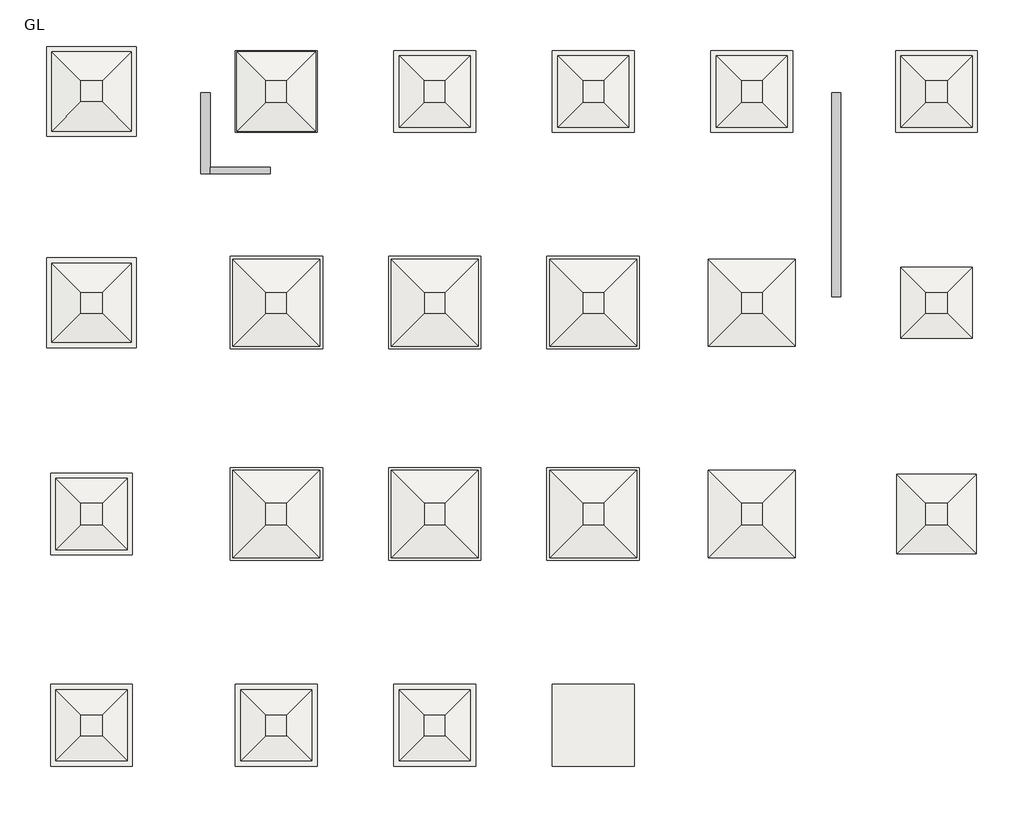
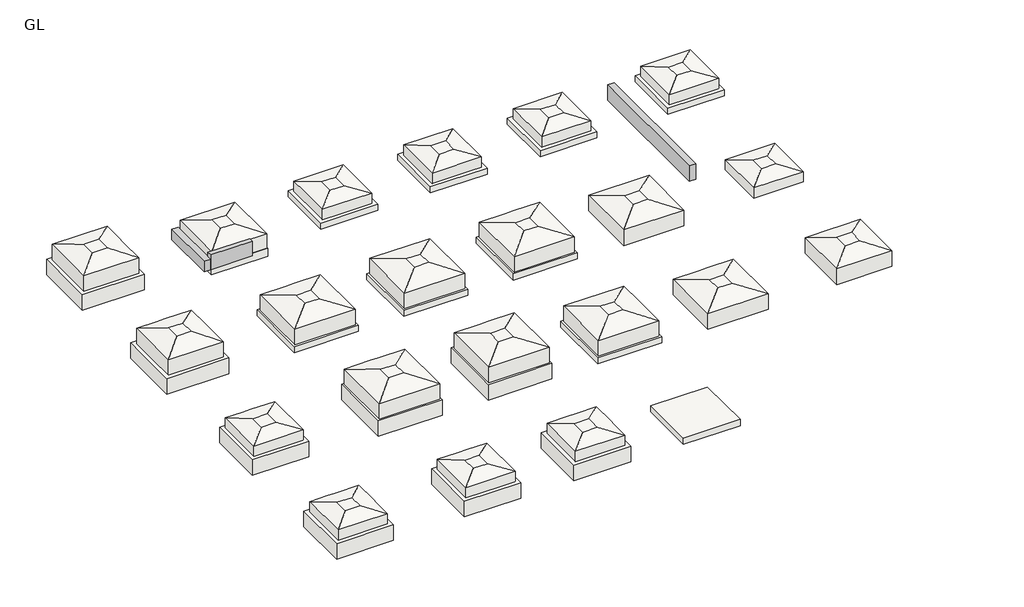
# One storey: 24 slabs, 3 beams.
"""IFC4 building model written with IfcOpenShell, lengths in millimetres."""

from ifc_helpers import new_model, si_unit, origin, place, context, project, spatial, faceted_brep, transform, mapped, element, save
from components import beam_9e31209b, beam_ea546368, beam_85b25be6, slab_0bee21c8, slab_3e6c1c75, slab_3ff351dd

model = new_model("IFC4")

# Units and contexts
model_context = context("Model", 3, world=origin())
ifc_project = project(units=[si_unit("LENGTHUNIT", "METRE", prefix="MILLI")], contexts=[model_context])

# Site, building, storey
site = spatial("IfcSite", under=ifc_project)
building = spatial("IfcBuilding", under=site)
storey = spatial("IfcBuildingStorey", under=building, Name="GL", Elevation=-300.0)

# Beams
placement = place(None, origin())
beam_shape = beam_9e31209b(model_context)
element("IfcBeam", 1, ObjectType="梁下部増打2 : 梁下部増打1", at=placement, inside=storey, context=model_context, shape_type="MappedRepresentation", body=[
    mapped(beam_shape, transform((0.0, 0.0, 0.0), x_axis=(1.0, 0.0, 0.0), y_axis=(0.0, 1.0, 0.0), z_axis=(0.0, 0.0, 1.0))),
])
beam_2_shape = beam_ea546368(model_context)
element("IfcBeam", 2, ObjectType="梁下部増打7 : 梁下部増打1", at=placement, inside=storey, context=model_context, shape_type="MappedRepresentation", body=[
    mapped(beam_2_shape, transform((-1805.1793852, -2009.8000068, 0.0), x_axis=(1.0, 0.0, 0.0), y_axis=(0.0, 1.0, 0.0), z_axis=(0.0, 0.0, 1.0))),
])
beam_3_shape = beam_85b25be6(model_context)
element("IfcBeam", 3, ObjectType="梁下部増打1 : 梁下部増打1", at=placement, inside=storey, context=model_context, shape_type="MappedRepresentation", body=[
    mapped(beam_3_shape, transform((21215.4817145, 0.0, 0.0), x_axis=(1.0, 0.0, 0.0), y_axis=(0.0, 1.0, 0.0), z_axis=(0.0, 0.0, 1.0))),
])

# Slabs
slab_shape = slab_0bee21c8(model_context)
element("IfcSlab", 4, ObjectType="ラップルコンクリート_基礎下端-1600 : ラップルコンクリート", at=placement, inside=storey, context=model_context, shape_type="MappedRepresentation", body=[
    mapped(slab_shape, transform((0.0, 0.0, 0.0), x_axis=(1.0, 0.0, 0.0), y_axis=(0.0, 1.0, 0.0), z_axis=(0.0, 0.0, 1.0))),
])
slab_2_shape = slab_3e6c1c75(model_context)
element("IfcSlab", 5, ObjectType="ラップルコンクリート_基礎下端-1750 : ラップルコンクリート", at=placement, inside=storey, context=model_context, shape_type="MappedRepresentation", body=[
    mapped(slab_2_shape, transform((0.0, 0.0, 0.0), x_axis=(1.0, 0.0, 0.0), y_axis=(0.0, 1.0, 0.0), z_axis=(0.0, 0.0, 1.0))),
])
slab_3_shape = slab_3ff351dd(model_context)
element("IfcSlab", 6, ObjectType="ラップルコンクリート_基礎下端1 : ラップルコンクリート", at=placement, inside=storey, context=model_context, shape_type="MappedRepresentation", body=[
    mapped(slab_3_shape, transform((0.0, 0.0, 0.0), x_axis=(1.0, 0.0, 0.0), y_axis=(0.0, 1.0, 0.0), z_axis=(0.0, 0.0, 1.0))),
])
element("IfcSlab", 7, ObjectType="RC_F_Rec_taper : F1_t", at=placement, inside=storey, context=model_context, shape_type="Brep", body=[
    faceted_brep([(8650.0, 9650.0, -1600.0), (8650.0, 6350.0, -1600.0), (5350.0, 6350.0, -1600.0), (5350.0, 9650.0, -1600.0), (5350.0, 9650.0, -700.0), (6775.0, 9650.0, -700.0), (7225.0, 9650.0, -700.0), (8650.0, 9650.0, -700.0), (8650.0, 6350.0, -700.0), (7400.0, 8400.0, -400.0), (6600.0, 8400.0, -400.0), (6600.0, 7600.0, -400.0), (7400.0, 7600.0, -400.0), (5350.0, 6350.0, -700.0)], [[[0, 1, 2, 3]], [[0, 3, 4, 5, 6, 7]], [[1, 0, 7, 8]], [[9, 10, 11, 12]], [[3, 2, 13, 4]], [[2, 1, 8, 13]], [[10, 9, 7, 6, 5, 4]], [[11, 10, 4, 13]], [[12, 11, 13, 8]], [[9, 12, 8, 7]]]),
])
element("IfcSlab", 8, ObjectType="RC_F_Rec_taper : F1_t", at=placement, inside=storey, context=model_context, shape_type="Brep", body=[
    faceted_brep([(14650.0, 9650.0, -1600.0), (14650.0, 6350.0, -1600.0), (11350.0, 6350.0, -1600.0), (11350.0, 9650.0, -1600.0), (11350.0, 9650.0, -700.0), (12775.0, 9650.0, -700.0), (13225.0, 9650.0, -700.0), (14650.0, 9650.0, -700.0), (14650.0, 8225.0, -700.0), (14650.0, 7775.0, -700.0), (14650.0, 6350.0, -700.0), (13400.0, 8400.0, -400.0), (12600.0, 8400.0, -400.0), (12600.0, 7600.0, -400.0), (13400.0, 7600.0, -400.0), (11350.0, 6350.0, -700.0)], [[[0, 1, 2, 3]], [[0, 3, 4, 5, 6, 7]], [[1, 0, 7, 8, 9, 10]], [[11, 12, 13, 14]], [[3, 2, 15, 4]], [[2, 1, 10, 15]], [[12, 11, 7, 6, 5, 4]], [[13, 12, 4, 15]], [[14, 13, 15, 10]], [[11, 14, 10, 9, 8, 7]]]),
])
element("IfcSlab", 9, ObjectType="RC_F_Rec_taper : F1_t", at=placement, inside=storey, context=model_context, shape_type="Brep", body=[
    faceted_brep([(20650.0, 9650.0, -2150.0), (20650.0, 6350.0, -2150.0), (17350.0, 6350.0, -2150.0), (17350.0, 9650.0, -2150.0), (17350.0, 9650.0, -1250.0), (18775.0, 9650.0, -1250.0), (19225.0, 9650.0, -1250.0), (20650.0, 9650.0, -1250.0), (20650.0, 8225.0, -1250.0), (20650.0, 7775.0, -1250.0), (20650.0, 6350.0, -1250.0), (19400.0, 8400.0, -950.0), (18600.0, 8400.0, -950.0), (18600.0, 7600.0, -950.0), (19400.0, 7600.0, -950.0), (17350.0, 6350.0, -1250.0)], [[[0, 1, 2, 3]], [[0, 3, 4, 5, 6, 7]], [[1, 0, 7, 8, 9, 10]], [[11, 12, 13, 14]], [[3, 2, 15, 4]], [[2, 1, 10, 15]], [[12, 11, 7, 6, 5, 4]], [[13, 12, 4, 15]], [[14, 13, 15, 10]], [[11, 14, 10, 9, 8, 7]]]),
])
element("IfcSlab", 10, ObjectType="RC_F_Rec_taper : F1_t", at=placement, inside=storey, context=model_context, shape_type="Brep", body=[
    faceted_brep([(26650.0, 9650.0, -2700.0), (26650.0, 6350.0, -2700.0), (23350.0, 6350.0, -2700.0), (23350.0, 9650.0, -2700.0), (23350.0, 9650.0, -1800.0), (24775.0, 9650.0, -1800.0), (25225.0, 9650.0, -1800.0), (26650.0, 9650.0, -1800.0), (26650.0, 6350.0, -1800.0), (25400.0, 8400.0, -1500.0), (24600.0, 8400.0, -1500.0), (24600.0, 7600.0, -1500.0), (25400.0, 7600.0, -1500.0), (23350.0, 6350.0, -1800.0)], [[[0, 1, 2, 3]], [[0, 3, 4, 5, 6, 7]], [[1, 0, 7, 8]], [[9, 10, 11, 12]], [[3, 2, 13, 4]], [[2, 1, 8, 13]], [[10, 9, 7, 6, 5, 4]], [[11, 10, 4, 13]], [[12, 11, 13, 8]], [[9, 12, 8, 7]]]),
])
element("IfcSlab", 11, ObjectType="RC_F_Rec_taper : F1_t", at=placement, inside=storey, context=model_context, shape_type="Brep", body=[
    faceted_brep([(8650.0, 17650.0, -2150.0), (8650.0, 14350.0, -2150.0), (5350.0, 14350.0, -2150.0), (5350.0, 17650.0, -2150.0), (5350.0, 17650.0, -1250.0), (6775.0, 17650.0, -1250.0), (7225.0, 17650.0, -1250.0), (8650.0, 17650.0, -1250.0), (8650.0, 14350.0, -1250.0), (7400.0, 16400.0, -950.0), (6600.0, 16400.0, -950.0), (6600.0, 15600.0, -950.0), (7400.0, 15600.0, -950.0), (5350.0, 14350.0, -1250.0)], [[[0, 1, 2, 3]], [[0, 3, 4, 5, 6, 7]], [[1, 0, 7, 8]], [[9, 10, 11, 12]], [[3, 2, 13, 4]], [[2, 1, 8, 13]], [[10, 9, 7, 6, 5, 4]], [[11, 10, 4, 13]], [[12, 11, 13, 8]], [[9, 12, 8, 7]]]),
])
element("IfcSlab", 12, ObjectType="RC_F_Rec_taper : F1_t", at=placement, inside=storey, context=model_context, shape_type="Brep", body=[
    faceted_brep([(14650.0, 17650.0, -2150.0), (14650.0, 14350.0, -2150.0), (11350.0, 14350.0, -2150.0), (11350.0, 17650.0, -2150.0), (11350.0, 17650.0, -1250.0), (12775.0, 17650.0, -1250.0), (13225.0, 17650.0, -1250.0), (14650.0, 17650.0, -1250.0), (14650.0, 14350.0, -1250.0), (13400.0, 16400.0, -950.0), (12600.0, 16400.0, -950.0), (12600.0, 15600.0, -950.0), (13400.0, 15600.0, -950.0), (11350.0, 14350.0, -1250.0)], [[[0, 1, 2, 3]], [[0, 3, 4, 5, 6, 7]], [[1, 0, 7, 8]], [[9, 10, 11, 12]], [[3, 2, 13, 4]], [[2, 1, 8, 13]], [[10, 9, 7, 6, 5, 4]], [[11, 10, 4, 13]], [[12, 11, 13, 8]], [[9, 12, 8, 7]]]),
])
element("IfcSlab", 13, ObjectType="RC_F_Rec_taper : F1_t", at=placement, inside=storey, context=model_context, shape_type="Brep", body=[
    faceted_brep([(20650.0, 17650.0, -2150.0), (20650.0, 14350.0, -2150.0), (17350.0, 14350.0, -2150.0), (17350.0, 17650.0, -2150.0), (17350.0, 17650.0, -1250.0), (18775.0, 17650.0, -1250.0), (19225.0, 17650.0, -1250.0), (20650.0, 17650.0, -1250.0), (20650.0, 16225.0, -1250.0), (20650.0, 15775.0, -1250.0), (20650.0, 14350.0, -1250.0), (19400.0, 16400.0, -950.0), (18600.0, 16400.0, -950.0), (18600.0, 15600.0, -950.0), (19400.0, 15600.0, -950.0), (17350.0, 14350.0, -1250.0)], [[[0, 1, 2, 3]], [[0, 3, 4, 5, 6, 7]], [[1, 0, 7, 8, 9, 10]], [[11, 12, 13, 14]], [[3, 2, 15, 4]], [[2, 1, 10, 15]], [[12, 11, 7, 6, 5, 4]], [[13, 12, 4, 15]], [[14, 13, 15, 10]], [[11, 14, 10, 9, 8, 7]]]),
])
element("IfcSlab", 14, ObjectType="RC_F_Rec_taper : F1_t", at=placement, inside=storey, context=model_context, shape_type="Brep", body=[
    faceted_brep([(26650.0, 17650.0, -2700.0), (26650.0, 14350.0, -2700.0), (23350.0, 14350.0, -2700.0), (23350.0, 17650.0, -2700.0), (23350.0, 17650.0, -1800.0), (26650.0, 17650.0, -1800.0), (26650.0, 14350.0, -1800.0), (25400.0, 16400.0, -1500.0), (24600.0, 16400.0, -1500.0), (24600.0, 15600.0, -1500.0), (25400.0, 15600.0, -1500.0), (23350.0, 14350.0, -1800.0)], [[[0, 1, 2, 3]], [[0, 3, 4, 5]], [[1, 0, 5, 6]], [[7, 8, 9, 10]], [[3, 2, 11, 4]], [[2, 1, 6, 11]], [[8, 7, 5, 4]], [[9, 8, 4, 11]], [[10, 9, 11, 6]], [[7, 10, 6, 5]]]),
])
element("IfcSlab", 15, ObjectType="RC_F_Rec_taper : F2_t", at=placement, inside=storey, context=model_context, shape_type="Brep", body=[
    faceted_brep([(33500.0, 9500.0, -2700.0), (33500.0, 6500.0, -2700.0), (30500.0, 6500.0, -2700.0), (30500.0, 9500.0, -2700.0), (30500.0, 9500.0, -1800.0), (31950.0, 9500.0, -1800.0), (32400.0, 9500.0, -1800.0), (33500.0, 9500.0, -1800.0), (33500.0, 6500.0, -1800.0), (32400.0, 8400.0, -1500.0), (31600.0, 8400.0, -1500.0), (31600.0, 7600.0, -1500.0), (32400.0, 7600.0, -1500.0), (30500.0, 6500.0, -1800.0)], [[[0, 1, 2, 3]], [[0, 3, 4, 5, 6, 7]], [[1, 0, 7, 8]], [[9, 10, 11, 12]], [[3, 2, 13, 4]], [[2, 1, 8, 13]], [[10, 9, 7, 6, 5, 4]], [[11, 10, 4, 13]], [[12, 11, 13, 8]], [[9, 12, 8, 7]]]),
])
element("IfcSlab", 16, ObjectType="RC_F_Rec_taper : F2_t", at=placement, inside=storey, context=model_context, shape_type="Brep", body=[
    faceted_brep([(1500.0, 17500.0, -1600.0), (1500.0, 14500.0, -1600.0), (-1500.0, 14500.0, -1600.0), (-1500.0, 17500.0, -1600.0), (-1500.0, 17500.0, -700.0), (-400.0, 17500.0, -700.0), (50.0, 17500.0, -700.0), (1500.0, 17500.0, -700.0), (1500.0, 16225.0, -700.0), (1500.0, 15775.0, -700.0), (1500.0, 14500.0, -700.0), (400.0, 16400.0, -400.0), (-400.0, 16400.0, -400.0), (-400.0, 15600.0, -400.0), (400.0, 15600.0, -400.0), (-1500.0, 14500.0, -700.0)], [[[0, 1, 2, 3]], [[0, 3, 4, 5, 6, 7]], [[1, 0, 7, 8, 9, 10]], [[11, 12, 13, 14]], [[3, 2, 15, 4]], [[2, 1, 10, 15]], [[12, 11, 7, 6, 5, 4]], [[13, 12, 4, 15]], [[14, 13, 15, 10]], [[11, 14, 10, 9, 8, 7]]]),
])
element("IfcSlab", 17, ObjectType="RC_F_Rec_taper : F2_t", at=placement, inside=storey, context=model_context, shape_type="Brep", body=[
    faceted_brep([(1500.0, 25500.0, -1600.0), (1500.0, 22500.0, -1600.0), (-1500.0, 22500.0, -1600.0), (-1500.0, 25500.0, -1600.0), (-1500.0, 25500.0, -700.0), (1500.0, 25500.0, -700.0), (1500.0, 24400.0, -700.0), (1500.0, 23950.0, -700.0), (1500.0, 22500.0, -700.0), (400.0, 24400.0, -400.0), (-400.0, 24400.0, -400.0), (-400.0, 23600.0, -400.0), (400.0, 23600.0, -400.0), (-1500.0, 22500.0, -700.0)], [[[0, 1, 2, 3]], [[0, 3, 4, 5]], [[1, 0, 5, 6, 7, 8]], [[9, 10, 11, 12]], [[3, 2, 13, 4]], [[2, 1, 8, 13]], [[10, 9, 5, 4]], [[11, 10, 4, 13]], [[12, 11, 13, 8]], [[9, 12, 8, 7, 6, 5]]]),
])
element("IfcSlab", 18, ObjectType="RC_F_Rec_taper : F2_t", at=placement, inside=storey, context=model_context, shape_type="Brep", body=[
    faceted_brep([(8500.0, 25500.0, -2650.0), (8500.0, 22500.0, -2650.0), (5500.0, 22500.0, -2650.0), (5500.0, 25500.0, -2650.0), (5500.0, 25500.0, -1750.0), (8500.0, 25500.0, -1750.0), (8500.0, 24400.0, -1750.0), (8500.0, 24000.0, -1750.0), (8500.0, 22500.0, -1750.0), (7400.0, 24400.0, -1450.0), (6600.0, 24400.0, -1450.0), (6600.0, 23600.0, -1450.0), (7400.0, 23600.0, -1450.0), (5500.0, 22500.0, -1750.0), (7000.0, 22500.0, -1750.0), (6775.0, 22500.0, -1750.0)], [[[0, 1, 2, 3]], [[0, 3, 4, 5]], [[1, 0, 5, 6, 7, 8]], [[9, 10, 11, 12]], [[3, 2, 13, 4]], [[2, 1, 8, 14, 15, 13]], [[10, 9, 5, 4]], [[11, 10, 4, 13]], [[12, 11, 13, 15, 14, 8]], [[9, 12, 8, 7, 6, 5]]]),
])
element("IfcSlab", 19, ObjectType="RC_F_Rec_taper : F3_t", at=placement, inside=storey, context=model_context, shape_type="Brep", body=[
    faceted_brep([(1350.0, 1350.0, -1600.0), (1350.0, -1350.0, -1600.0), (-1350.0, -1350.0, -1600.0), (-1350.0, 1350.0, -1600.0), (-1350.0, 1350.0, -1000.0), (-400.0, 1350.0, -1000.0), (50.0, 1350.0, -1000.0), (1350.0, 1350.0, -1000.0), (1350.0, 50.0, -1000.0), (1350.0, -400.0, -1000.0), (1350.0, -1350.0, -1000.0), (400.0, 400.0, -800.0), (-400.0, 400.0, -800.0), (-400.0, -400.0, -800.0), (400.0, -400.0, -800.0), (-1350.0, -1350.0, -1000.0)], [[[0, 1, 2, 3]], [[0, 3, 4, 5, 6, 7]], [[1, 0, 7, 8, 9, 10]], [[11, 12, 13, 14]], [[3, 2, 15, 4]], [[2, 1, 10, 15]], [[12, 11, 7, 6, 5, 4]], [[13, 12, 4, 15]], [[14, 13, 15, 10]], [[11, 14, 10, 9, 8, 7]]]),
])
element("IfcSlab", 20, ObjectType="RC_F_Rec_taper : F3_t", at=placement, inside=storey, context=model_context, shape_type="Brep", body=[
    faceted_brep([(8350.0, 1350.0, -1600.0), (8350.0, -1350.0, -1600.0), (5650.0, -1350.0, -1600.0), (5650.0, 1350.0, -1600.0), (5650.0, 1350.0, -1000.0), (6775.0, 1350.0, -1000.0), (7225.0, 1350.0, -1000.0), (8350.0, 1350.0, -1000.0), (8350.0, -1350.0, -1000.0), (7400.0, 400.0, -800.0), (6600.0, 400.0, -800.0), (6600.0, -400.0, -800.0), (7400.0, -400.0, -800.0), (5650.0, -1350.0, -1000.0)], [[[0, 1, 2, 3]], [[0, 3, 4, 5, 6, 7]], [[1, 0, 7, 8]], [[9, 10, 11, 12]], [[3, 2, 13, 4]], [[2, 1, 8, 13]], [[10, 9, 7, 6, 5, 4]], [[11, 10, 4, 13]], [[12, 11, 13, 8]], [[9, 12, 8, 7]]]),
])
element("IfcSlab", 21, ObjectType="RC_F_Rec_taper : F3_t", at=placement, inside=storey, context=model_context, shape_type="Brep", body=[
    faceted_brep([(14350.0, 1350.0, -1600.0), (14350.0, -1350.0, -1600.0), (11650.0, -1350.0, -1600.0), (11650.0, 1350.0, -1600.0), (11650.0, 1350.0, -1000.0), (12775.0, 1350.0, -1000.0), (13225.0, 1350.0, -1000.0), (14350.0, 1350.0, -1000.0), (14350.0, 50.0, -1000.0), (14350.0, -400.0, -1000.0), (14350.0, -1350.0, -1000.0), (13400.0, 400.0, -800.0), (12600.0, 400.0, -800.0), (12600.0, -400.0, -800.0), (13400.0, -400.0, -800.0), (11650.0, -1350.0, -1000.0)], [[[0, 1, 2, 3]], [[0, 3, 4, 5, 6, 7]], [[1, 0, 7, 8, 9, 10]], [[11, 12, 13, 14]], [[3, 2, 15, 4]], [[2, 1, 10, 15]], [[12, 11, 7, 6, 5, 4]], [[13, 12, 4, 15]], [[14, 13, 15, 10]], [[11, 14, 10, 9, 8, 7]]]),
])
element("IfcSlab", 22, ObjectType="RC_F_Rec_taper : F3_t", at=placement, inside=storey, context=model_context, shape_type="Brep", body=[
    faceted_brep([(1350.0, 9350.0, -1600.0), (1350.0, 6650.0, -1600.0), (-1350.0, 6650.0, -1600.0), (-1350.0, 9350.0, -1600.0), (-1350.0, 9350.0, -1000.0), (-400.0, 9350.0, -1000.0), (50.0, 9350.0, -1000.0), (1350.0, 9350.0, -1000.0), (1350.0, 6650.0, -1000.0), (400.0, 8400.0, -800.0), (-400.0, 8400.0, -800.0), (-400.0, 7600.0, -800.0), (400.0, 7600.0, -800.0), (-1350.0, 6650.0, -1000.0)], [[[0, 1, 2, 3]], [[0, 3, 4, 5, 6, 7]], [[1, 0, 7, 8]], [[9, 10, 11, 12]], [[3, 2, 13, 4]], [[2, 1, 8, 13]], [[10, 9, 7, 6, 5, 4]], [[11, 10, 4, 13]], [[12, 11, 13, 8]], [[9, 12, 8, 7]]]),
])
element("IfcSlab", 23, ObjectType="RC_F_Rec_taper : F3_t", at=placement, inside=storey, context=model_context, shape_type="Brep", body=[
    faceted_brep([(33350.0, 17350.0, -2700.0), (33350.0, 14650.0, -2700.0), (30650.0, 14650.0, -2700.0), (30650.0, 17350.0, -2700.0), (30650.0, 17350.0, -2100.0), (33350.0, 17350.0, -2100.0), (33350.0, 14650.0, -2100.0), (32400.0, 16400.0, -1900.0), (31600.0, 16400.0, -1900.0), (31600.0, 15600.0, -1900.0), (32400.0, 15600.0, -1900.0), (30650.0, 14650.0, -2100.0)], [[[0, 1, 2, 3]], [[0, 3, 4, 5]], [[1, 0, 5, 6]], [[7, 8, 9, 10]], [[3, 2, 11, 4]], [[2, 1, 6, 11]], [[8, 7, 5, 4]], [[9, 8, 4, 11]], [[10, 9, 11, 6]], [[7, 10, 6, 5]]]),
])
element("IfcSlab", 24, ObjectType="RC_F_Rec_taper : F3_t", at=placement, inside=storey, context=model_context, shape_type="Brep", body=[
    faceted_brep([(14350.0, 25350.0, -2150.0), (14350.0, 22650.0, -2150.0), (11650.0, 22650.0, -2150.0), (11650.0, 25350.0, -2150.0), (11650.0, 25350.0, -1550.0), (14350.0, 25350.0, -1550.0), (14350.0, 22650.0, -1550.0), (13400.0, 24400.0, -1350.0), (12600.0, 24400.0, -1350.0), (12600.0, 23600.0, -1350.0), (13400.0, 23600.0, -1350.0), (11650.0, 22650.0, -1550.0), (11650.0, 23950.0, -1550.0), (11650.0, 24400.0, -1550.0)], [[[0, 1, 2, 3]], [[0, 3, 4, 5]], [[1, 0, 5, 6]], [[7, 8, 9, 10]], [[3, 2, 11, 12, 13, 4]], [[2, 1, 6, 11]], [[8, 7, 5, 4]], [[9, 8, 4, 13, 12, 11]], [[10, 9, 11, 6]], [[7, 10, 6, 5]]]),
])
element("IfcSlab", 25, ObjectType="RC_F_Rec_taper : F3_t", at=placement, inside=storey, context=model_context, shape_type="Brep", body=[
    faceted_brep([(20350.0, 25350.0, -2150.0), (20350.0, 22650.0, -2150.0), (17650.0, 22650.0, -2150.0), (17650.0, 25350.0, -2150.0), (17650.0, 25350.0, -1550.0), (20350.0, 25350.0, -1550.0), (20350.0, 22650.0, -1550.0), (19400.0, 24400.0, -1350.0), (18600.0, 24400.0, -1350.0), (18600.0, 23600.0, -1350.0), (19400.0, 23600.0, -1350.0), (17650.0, 22650.0, -1550.0)], [[[0, 1, 2, 3]], [[0, 3, 4, 5]], [[1, 0, 5, 6]], [[7, 8, 9, 10]], [[3, 2, 11, 4]], [[2, 1, 6, 11]], [[8, 7, 5, 4]], [[9, 8, 4, 11]], [[10, 9, 11, 6]], [[7, 10, 6, 5]]]),
])
element("IfcSlab", 26, ObjectType="RC_F_Rec_taper : F3_t", at=placement, inside=storey, context=model_context, shape_type="Brep", body=[
    faceted_brep([(26350.0, 25350.0, -2150.0), (26350.0, 22650.0, -2150.0), (23650.0, 22650.0, -2150.0), (23650.0, 25350.0, -2150.0), (23650.0, 25350.0, -1550.0), (26350.0, 25350.0, -1550.0), (26350.0, 22650.0, -1550.0), (25400.0, 24400.0, -1350.0), (24600.0, 24400.0, -1350.0), (24600.0, 23600.0, -1350.0), (25400.0, 23600.0, -1350.0), (23650.0, 22650.0, -1550.0)], [[[0, 1, 2, 3]], [[0, 3, 4, 5]], [[1, 0, 5, 6]], [[7, 8, 9, 10]], [[3, 2, 11, 4]], [[2, 1, 6, 11]], [[8, 7, 5, 4]], [[9, 8, 4, 11]], [[10, 9, 11, 6]], [[7, 10, 6, 5]]]),
])
element("IfcSlab", 27, ObjectType="RC_F_Rec_taper : F3_t", at=placement, inside=storey, context=model_context, shape_type="Brep", body=[
    faceted_brep([(33350.0, 25350.0, -2150.0), (33350.0, 22650.0, -2150.0), (30650.0, 22650.0, -2150.0), (30650.0, 25350.0, -2150.0), (30650.0, 25350.0, -1550.0), (33350.0, 25350.0, -1550.0), (33350.0, 22650.0, -1550.0), (32400.0, 24400.0, -1350.0), (31600.0, 24400.0, -1350.0), (31600.0, 23600.0, -1350.0), (32400.0, 23600.0, -1350.0), (30650.0, 22650.0, -1550.0)], [[[0, 1, 2, 3]], [[0, 3, 4, 5]], [[1, 0, 5, 6]], [[7, 8, 9, 10]], [[3, 2, 11, 4]], [[2, 1, 6, 11]], [[8, 7, 5, 4]], [[9, 8, 4, 11]], [[10, 9, 11, 6]], [[7, 10, 6, 5]]]),
])

save(model, "model.ifc")
